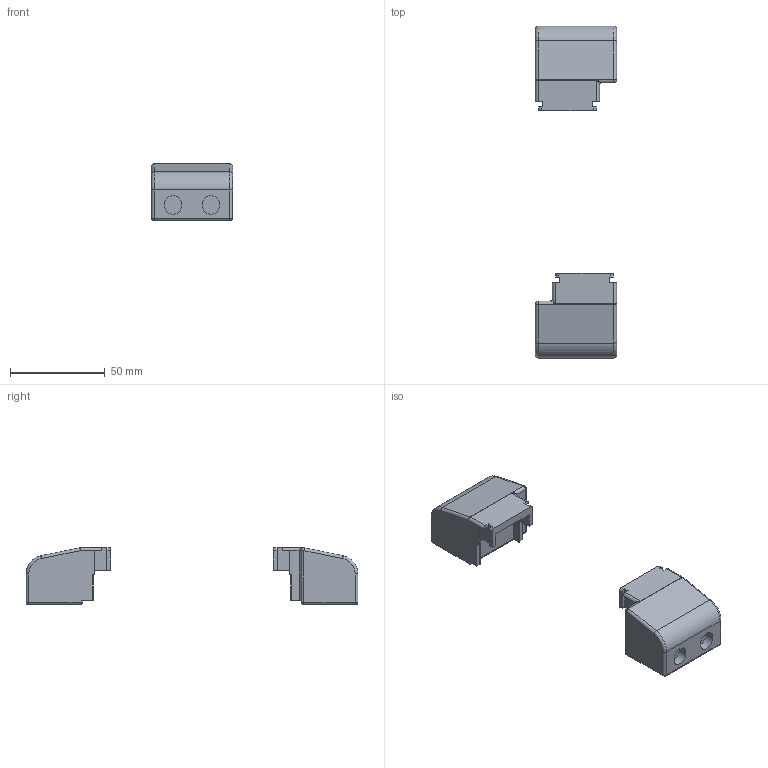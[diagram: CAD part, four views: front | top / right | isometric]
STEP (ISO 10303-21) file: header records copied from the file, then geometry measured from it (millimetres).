
FILE_DESCRIPTION((''),'2;1');
FILE_NAME('DEWI_SR-STD_DMEC_ASSY_115','2015-12-16T',('emanuel.wild'),(''),'PRO/ENGINEER BY PARAMETRIC TECHNOLOGY CORPORATION, 2015200','PRO/ENGINEER BY PARAMETRIC TECHNOLOGY CORPORATION, 2015200','');
FILE_SCHEMA(('AUTOMOTIVE_DESIGN { 1 0 10303 214 1 1 1 1 }'));
Length unit declared in the file: millimetre
Products named in the file (2): DEWI_SR-STD_DMEC; DEWI_SR-STD_DMEC_ASSY_115
Assembly tree (2 placements, depth 2):
  DEWI_SR-STD_DMEC_ASSY_115
    DEWI_SR-STD_DMEC  x2
Bounding box: 42.8 x 175 x 29.8 mm (x, y, z)
Volume: 66408.4 mm3; surface area: 18943.6 mm2
Topology: 2 solids, 2 shells, 196 faces, 504 edges, 316 vertices
Faces by surface type: plane 112, cylinder 58, bspline 12, sphere 8, torus 6
Entity records: 3847 total; most frequent: CARTESIAN_POINT 770, DIRECTION 504, ORIENTED_EDGE 504, EDGE_CURVE 252, VECTOR 180, LINE 180, AXIS2_PLACEMENT_3D 162, VERTEX_POINT 158
